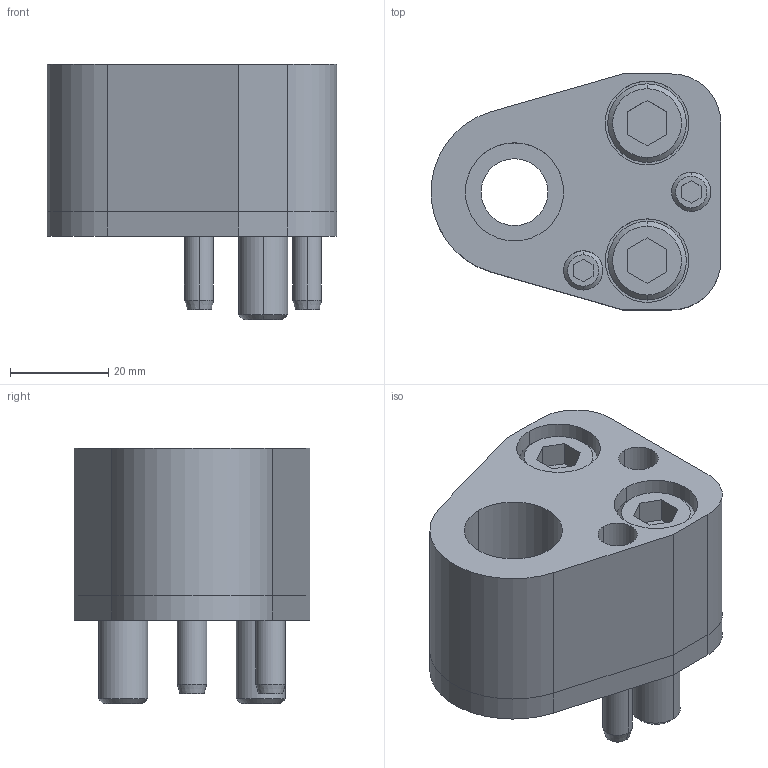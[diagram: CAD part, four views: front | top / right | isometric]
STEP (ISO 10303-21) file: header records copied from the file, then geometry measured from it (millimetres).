
FILE_DESCRIPTION(/* description */ (''),/* implementation_level */ '2;1');
FILE_NAME(/* name */ '3d_cp-ad20_03056_r00.stp',/* time_stamp */ '2011-01-10T14:16:31+09:00',/* author */ ('MISUMI'),/* organization */ (''),/* preprocessor_version */ 'ST-DEVELOPER v11',/* originating_system */ 'UGS - NX 5.0',/* authorisation */ '');
FILE_SCHEMA (('CONFIG_CONTROL_DESIGN'));
Length unit declared in the file: millimetre
Products named in the file (1): 3d_cp-ad20_03056_r00
Bounding box: 58.94 x 48 x 52 mm (x, y, z)
Volume: 68454.2 mm3; surface area: 26608.4 mm2
Topology: 8 solids, 8 shells, 155 faces, 346 edges, 222 vertices
Faces by surface type: plane 67, cylinder 62, cone 26
Entity records: 4474 total; most frequent: DIRECTION 804, CARTESIAN_POINT 772, ORIENTED_EDGE 692, EDGE_CURVE 346, AXIS2_PLACEMENT_3D 306, VERTEX_POINT 222, LINE 192, VECTOR 192
